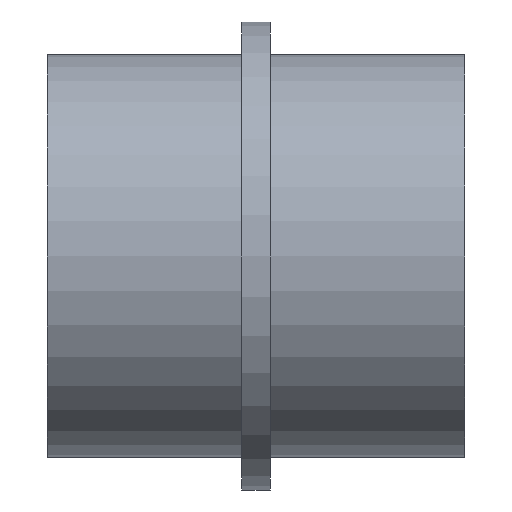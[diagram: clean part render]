
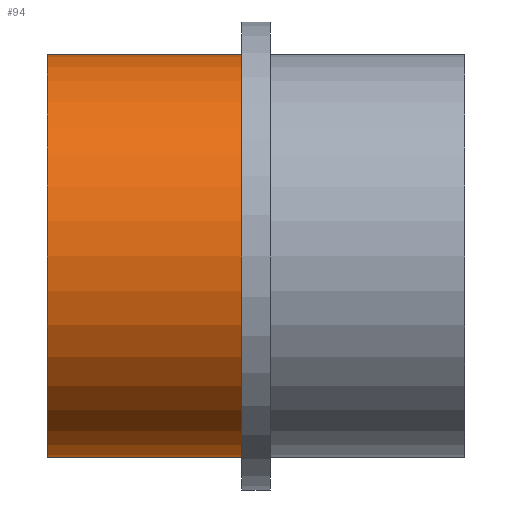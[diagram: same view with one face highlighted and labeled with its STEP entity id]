
A CAD part, front view. The second image highlights one B-rep face of the part: STEP entity #94.
In plain terms, the highlighted cylindrical face has radius 28 mm (diameter 56 mm), a full revolution.
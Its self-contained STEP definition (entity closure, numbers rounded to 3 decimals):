
#18=FACE_BOUND($,#35,.T.);
#28=FACE_OUTER_BOUND($,#34,.T.);
#34=EDGE_LOOP($,(#74));
#35=EDGE_LOOP($,(#75));
#50=CIRCLE($,#106,28.);
#51=CIRCLE($,#107,28.);
#58=VERTEX_POINT($,#157);
#59=VERTEX_POINT($,#159);
#66=EDGE_CURVE($,#58,#58,#50,.T.);
#67=EDGE_CURVE($,#59,#59,#51,.T.);
#74=ORIENTED_EDGE($,*,*,#66,.F.);
#75=ORIENTED_EDGE($,*,*,#67,.T.);
#90=CYLINDRICAL_SURFACE($,#105,28.);
#94=ADVANCED_FACE($,(#28,#18),#90,.T.);
#105=AXIS2_PLACEMENT_3D($,#156,#123,#124);
#106=AXIS2_PLACEMENT_3D($,#158,#125,#126);
#107=AXIS2_PLACEMENT_3D($,#160,#127,#128);
#123=DIRECTION('center_axis',(1.,0.,0.));
#124=DIRECTION('ref_axis',(0.,1.,0.));
#125=DIRECTION('center_axis',(1.,0.,0.));
#126=DIRECTION('ref_axis',(0.,1.,0.));
#127=DIRECTION('center_axis',(1.,0.,0.));
#128=DIRECTION('ref_axis',(0.,1.,0.));
#156=CARTESIAN_POINT('Origin',(13.5,0.,0.));
#157=CARTESIAN_POINT('',(27.,28.,0.));
#158=CARTESIAN_POINT('Origin',(27.,0.,0.));
#159=CARTESIAN_POINT('',(0.,28.,0.));
#160=CARTESIAN_POINT('Origin',(0.,0.,
0.));
